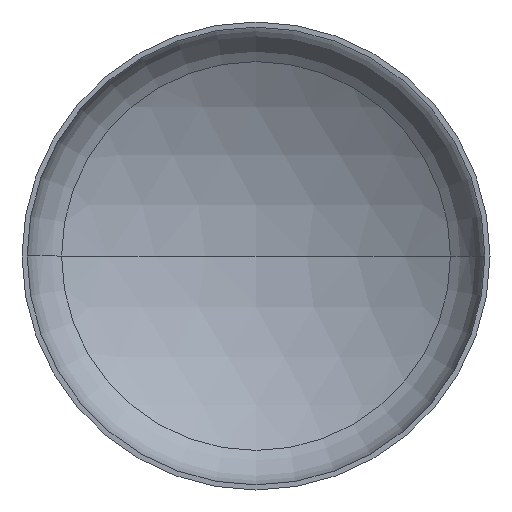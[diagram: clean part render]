
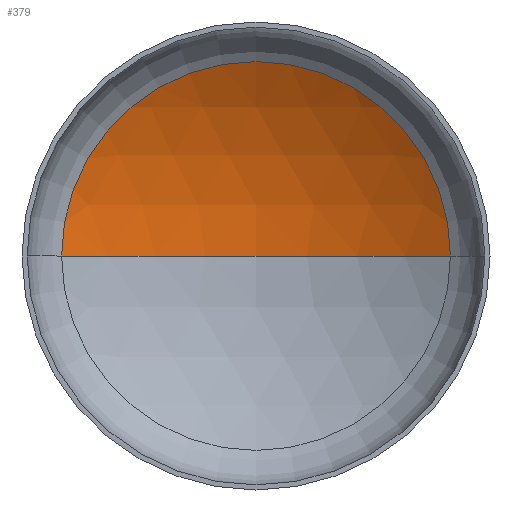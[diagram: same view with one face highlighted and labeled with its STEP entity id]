
A CAD part, front view. The second image highlights one B-rep face of the part: STEP entity #379.
In plain terms, the highlighted spherical face has radius 2560 mm.
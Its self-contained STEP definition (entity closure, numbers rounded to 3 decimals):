
#4 = AXIS2_PLACEMENT_3D ( 'NONE', #59, #271, #381 ) ;
#19 = ORIENTED_EDGE ( 'NONE', *, *, #189, .F. ) ;
#31 = AXIS2_PLACEMENT_3D ( 'NONE', #238, #232, #251 ) ;
#32 = AXIS2_PLACEMENT_3D ( 'NONE', #172, #135, #249 ) ;
#34 = AXIS2_PLACEMENT_3D ( 'NONE', #239, #324, #359 ) ;
#59 = CARTESIAN_POINT ( 'NONE',  ( 0., -1658.976, 0. ) ) ;
#67 = CIRCLE ( 'NONE', #34, 1329.469 ) ;
#91 = VERTEX_POINT ( 'NONE', #222 ) ;
#97 = VERTEX_POINT ( 'NONE', #225 ) ;
#135 = DIRECTION ( 'NONE',  ( 0., 0., -1. ) ) ;
#153 = EDGE_CURVE ( 'NONE', #97, #91, #67, .T. ) ;
#158 = ORIENTED_EDGE ( 'NONE', *, *, #168, .T. ) ;
#168 = EDGE_CURVE ( 'NONE', #301, #97, #303, .T. ) ;
#172 = CARTESIAN_POINT ( 'NONE',  ( 0., -1658.976, 0. ) ) ;
#189 = EDGE_CURVE ( 'NONE', #301, #91, #362, .T. ) ;
#222 = CARTESIAN_POINT ( 'NONE',  ( -1329.469, 528.743, 0. ) ) ;
#225 = CARTESIAN_POINT ( 'NONE',  ( 1329.469, 528.743, 0. ) ) ;
#232 = DIRECTION ( 'NONE',  ( 0., 0., 1. ) ) ;
#238 = CARTESIAN_POINT ( 'NONE',  ( 0., -1658.976, 0. ) ) ;
#239 = CARTESIAN_POINT ( 'NONE',  ( 0., 528.743, 0. ) ) ;
#240 = ORIENTED_EDGE ( 'NONE', *, *, #153, .T. ) ;
#249 = DIRECTION ( 'NONE',  ( -1., 0., 0. ) ) ;
#251 = DIRECTION ( 'NONE',  ( 1., 0., 0. ) ) ;
#271 = DIRECTION ( 'NONE',  ( 0., 0., -1. ) ) ;
#276 = EDGE_LOOP ( 'NONE', ( #19, #158, #240 ) ) ;
#289 = CARTESIAN_POINT ( 'NONE',  ( 0., 901.024, 0. ) ) ;
#301 = VERTEX_POINT ( 'NONE', #289 ) ;
#303 = CIRCLE ( 'NONE', #32, 2560. ) ;
#324 = DIRECTION ( 'NONE',  ( 0., -1., 0. ) ) ;
#330 = SPHERICAL_SURFACE ( 'NONE', #4, 2560. ) ;
#359 = DIRECTION ( 'NONE',  ( 1., 0., 0. ) ) ;
#362 = CIRCLE ( 'NONE', #31, 2560. ) ;
#379 = ADVANCED_FACE ( 'NONE', ( #401 ), #330, .F. ) ;
#381 = DIRECTION ( 'NONE',  ( -1., 0., 0. ) ) ;
#401 = FACE_OUTER_BOUND ( 'NONE', #276, .T. ) ;
